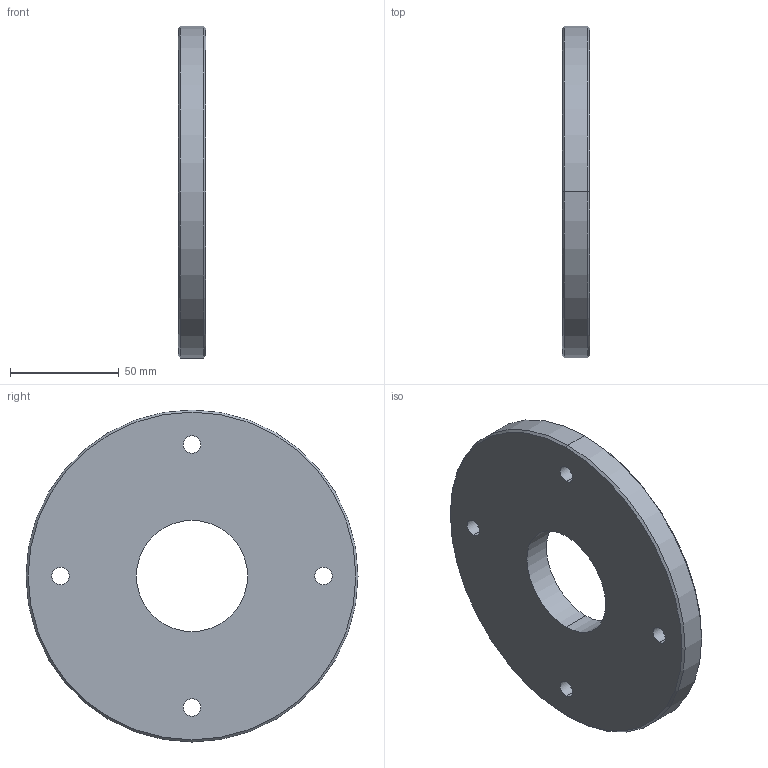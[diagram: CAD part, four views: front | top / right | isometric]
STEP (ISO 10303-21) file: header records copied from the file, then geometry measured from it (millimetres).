
FILE_DESCRIPTION (( 'STEP AP214' ), '1' );
FILE_NAME ('E38SL-6L2.0.STEP', '2016-05-23T04:41:23', ( 'eran' ), ( '' ), 'SwSTEP 2.0', 'SolidWorks 2016', '' );
FILE_SCHEMA (( 'AUTOMOTIVE_DESIGN' ));
Length unit declared in the file: millimetre
Products named in the file (1): E38SL-6L2.0
Bounding box: 12.7 x 152.4 x 152.4 mm (x, y, z)
Volume: 202590.8 mm3; surface area: 40811.6 mm2
Topology: 1 solids, 1 shells, 18 faces, 44 edges, 28 vertices
Faces by surface type: cylinder 12, cone 4, plane 2
Entity records: 598 total; most frequent: DIRECTION 110, CARTESIAN_POINT 91, ORIENTED_EDGE 88, AXIS2_PLACEMENT_3D 47, EDGE_CURVE 44, VERTEX_POINT 28, EDGE_LOOP 28, CIRCLE 28
